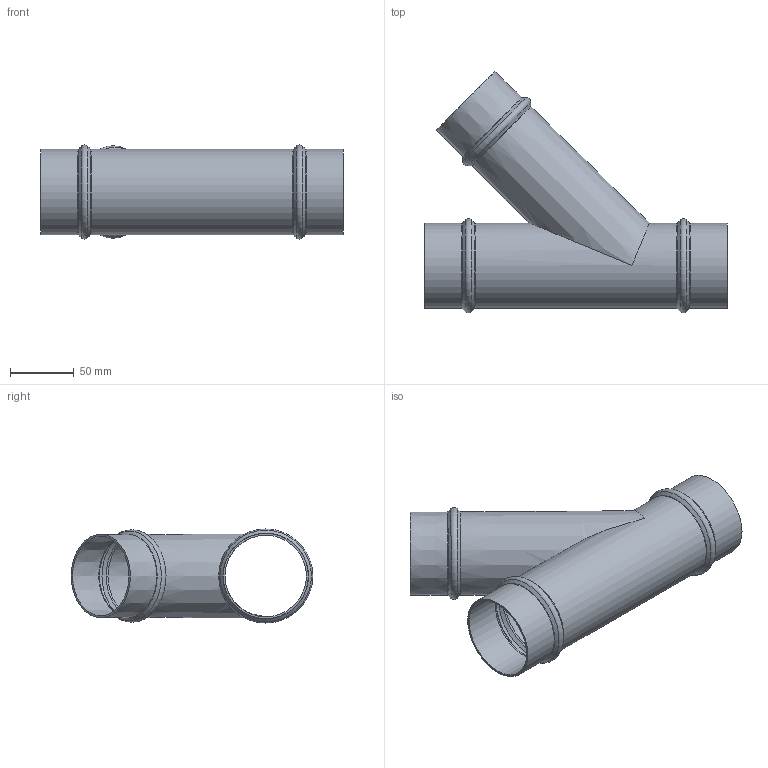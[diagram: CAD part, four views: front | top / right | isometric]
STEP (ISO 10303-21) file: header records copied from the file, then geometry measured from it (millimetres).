
FILE_DESCRIPTION(/* description */ (''),/* implementation_level */ '2;1');
FILE_NAME(/* name */ '2016 6009 00.stp',/* time_stamp */ '2025-07-25T11:39:56+08:00',/* author */ (''),/* organization */ (''),/* preprocessor_version */ 'ST-DEVELOPER v11',/* originating_system */ 'SIEMENS PLM Software NX 7.5',/* authorisation */ '');
FILE_SCHEMA (('CONFIG_CONTROL_DESIGN'));
Length unit declared in the file: millimetre
Products named in the file (1): Admi7CF9xr9d
Bounding box: 238 x 189.88 x 73.98 mm (x, y, z)
Volume: 114470.4 mm3; surface area: 153537 mm2
Topology: 1 solids, 1 shells, 43 faces, 93 edges, 50 vertices
Faces by surface type: torus 18, cone 17, cylinder 6, plane 2
Full cylindrical faces by diameter (mm): 64 x3, 67 x3
Entity records: 1088 total; most frequent: CARTESIAN_POINT 248, DIRECTION 172, ORIENTED_EDGE 92, FACE_BOUND 88, EDGE_LOOP 88, AXIS2_PLACEMENT_3D 86, VERTEX_POINT 46, EDGE_CURVE 46
